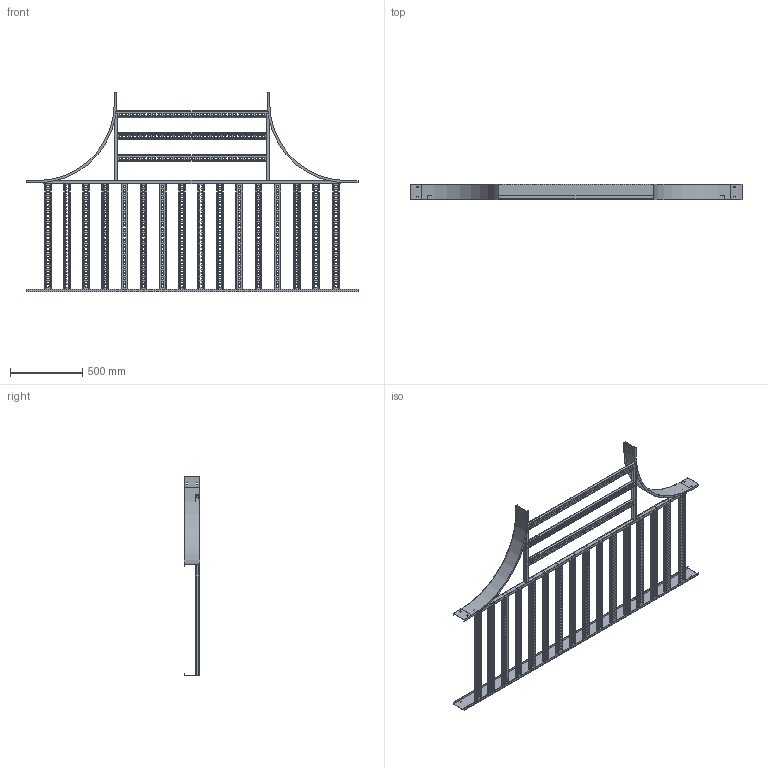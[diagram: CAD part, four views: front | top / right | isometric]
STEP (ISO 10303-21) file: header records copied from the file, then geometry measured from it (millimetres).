
FILE_DESCRIPTION((''),'2;1');
FILE_NAME('AUF43042VET24_ASM','2010-02-04T',('erouzier'),(''),'PRO/ENGINEER BY PARAMETRIC TECHNOLOGY CORPORATION, 2008510','PRO/ENGINEER BY PARAMETRIC TECHNOLOGY CORPORATION, 2008510','');
FILE_SCHEMA(('CONFIG_CONTROL_DESIGN'));
Length unit declared in the file: inch
Products named in the file (18): CDS001319-4-90-21-I; CDS013841-4-90; CDS000495_GEN_AF9; CDS002159L30-P_AF8; CDS002159L30-P_AF9; CDS002159L30-P_AF10; CDS002159L30-P_AF11; CDS002159L30-P; CDS002159L30-P_AF12; CDS002159L30-P_AF13; CDS002159L30-P_AF14; CDS002159L30-P_AF15; CDS000495_GEN_AF10; CDS000495_GEN_AF11; CDS002159L42-P_AF3; CDS002159L42-P_AF4; CDS002159L42-P_AF5; AUF43042VET24_ASM
Assembly tree (25 placements, depth 2):
  AUF43042VET24_ASM
    CDS001319-4-90-21-I  x2
    CDS013841-4-90
    CDS000495_GEN_AF9
    CDS002159L30-P_AF8
    CDS002159L30-P_AF9
    CDS002159L30-P_AF10
    CDS002159L30-P_AF11
    CDS002159L30-P  x8
    CDS002159L30-P_AF12
    CDS002159L30-P_AF13
    CDS002159L30-P_AF14
    CDS002159L30-P_AF15
    CDS000495_GEN_AF10
    CDS000495_GEN_AF11
    CDS002159L42-P_AF3
    CDS002159L42-P_AF4
    CDS002159L42-P_AF5
Bounding box: 2290.57 x 106.05 x 1376.17 mm (x, y, z)
Volume: 3771827.8 mm3; surface area: 4963570.7 mm2
Topology: 25 solids, 25 shells, 5238 faces, 15564 edges, 10376 vertices
Faces by surface type: plane 2749, cylinder 2489
Entity records: 117543 total; most frequent: CARTESIAN_POINT 20429, DIRECTION 20362, ORIENTED_EDGE 20352, EDGE_CURVE 10176, VECTOR 6928, LINE 6928, VERTEX_POINT 6784, AXIS2_PLACEMENT_3D 6717
